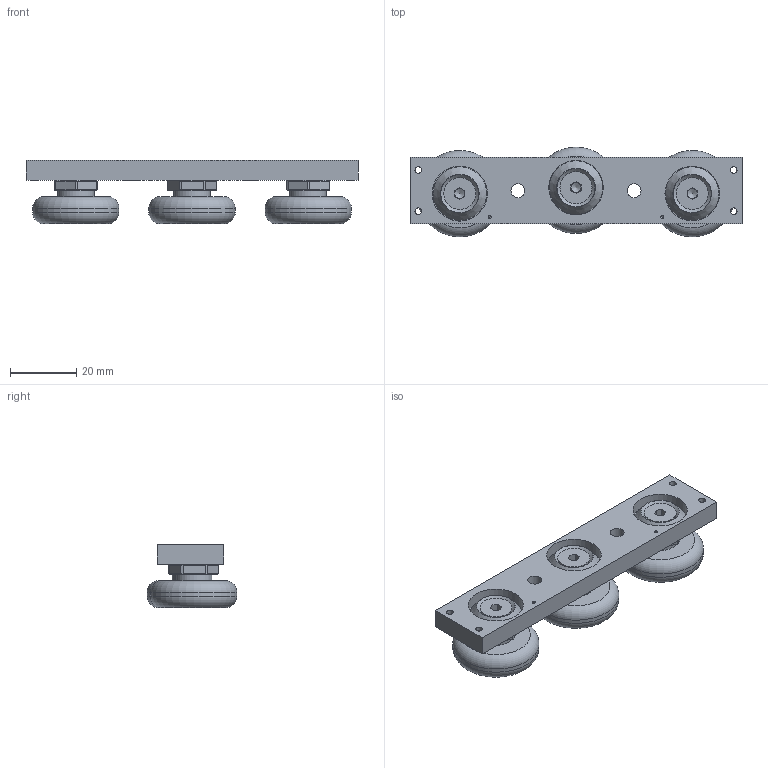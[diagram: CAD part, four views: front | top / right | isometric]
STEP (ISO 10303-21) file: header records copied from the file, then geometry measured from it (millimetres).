
FILE_DESCRIPTION (( 'STEP AP214' ), '1' );
FILE_NAME ('RLS33-3.STEP', '2022-02-01T10:22:21', ( '' ), ( '' ), 'SwSTEP 2.0', 'SolidWorks 2019', '' );
FILE_SCHEMA (( 'AUTOMOTIVE_DESIGN' ));
Length unit declared in the file: millimetre
Products named in the file (6): DIN 7991 - M5 x 12 - A2-70_DIN 7991 - M5 x 12 - A2-70; 32425; RLS33-3; 11686_01; 32426; 11683_01
Assembly tree (10 placements, depth 2):
  RLS33-3
    11683_01
    32425  x2
    32426
    11686_01  x3
    DIN 7991 - M5 x 12 - A2-70_DIN 7991 - M5 x 12 - A2-70  x3
Bounding box: 100 x 27 x 19 mm (x, y, z)
Volume: 24138.6 mm3; surface area: 14416.4 mm2
Topology: 10 solids, 10 shells, 247 faces, 487 edges, 272 vertices
Faces by surface type: plane 180, cylinder 35, cone 23, torus 9
Full cylindrical faces by diameter (mm): 1 x2, 2 x4, 4.2 x5, 5 x3, 9 x6, 9.64 x3, 11 x3, 16 x3, 16.4 x2, 16.6 x1, 26 x3
Entity records: 3843 total; most frequent: DIRECTION 636, CARTESIAN_POINT 567, ORIENTED_EDGE 494, EDGE_CURVE 247, AXIS2_PLACEMENT_3D 228, EDGE_LOOP 218, VECTOR 180, LINE 180
